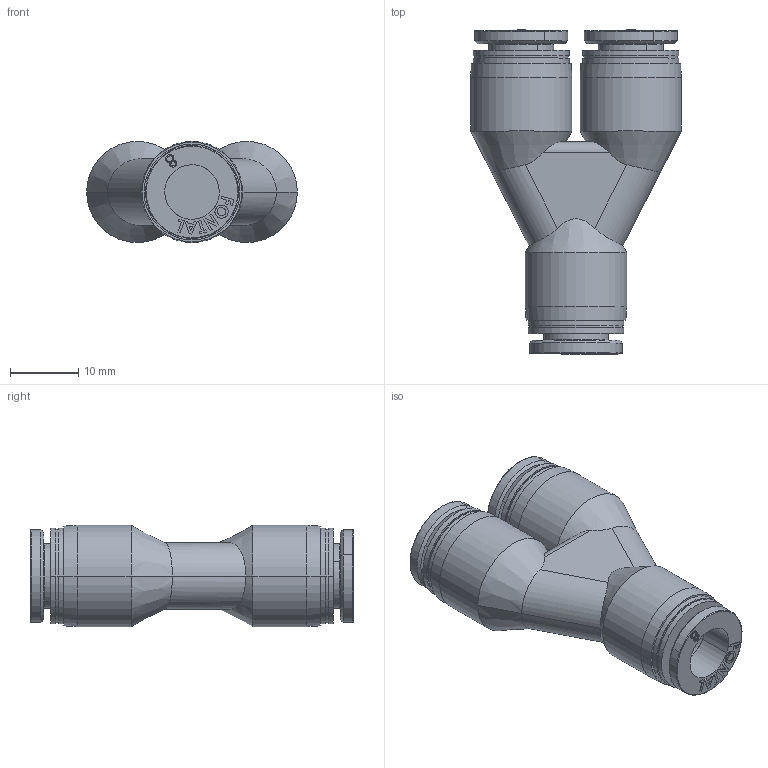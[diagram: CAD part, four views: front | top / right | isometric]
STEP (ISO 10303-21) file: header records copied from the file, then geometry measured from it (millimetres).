
FILE_DESCRIPTION (( 'STEP AP203' ), '1' );
FILE_NAME ('FPY8.STEP', '2016-01-14T21:09:47', ( '' ), ( '' ), 'SwSTEP 2.0', 'SolidWorks 2014', '' );
FILE_SCHEMA (( 'CONFIG_CONTROL_DESIGN' ));
Length unit declared in the file: millimetre
Products named in the file (3): FPY8; FPY8-A; FPC8-01-A
Assembly tree (4 placements, depth 2):
  FPY8
    FPY8-A
    FPC8-01-A  x3
Bounding box: 30.8 x 47.36 x 14.8 mm (x, y, z)
Volume: 7421.9 mm3; surface area: 6134.2 mm2
Topology: 4 solids, 4 shells, 369 faces, 905 edges, 592 vertices
Faces by surface type: plane 195, bspline 84, cylinder 60, cone 18, torus 12
Entity records: 7054 total; most frequent: CARTESIAN_POINT 2833, ORIENTED_EDGE 814, DIRECTION 747, EDGE_CURVE 407, VERTEX_POINT 264, AXIS2_PLACEMENT_3D 260, VECTOR 227, LINE 227
